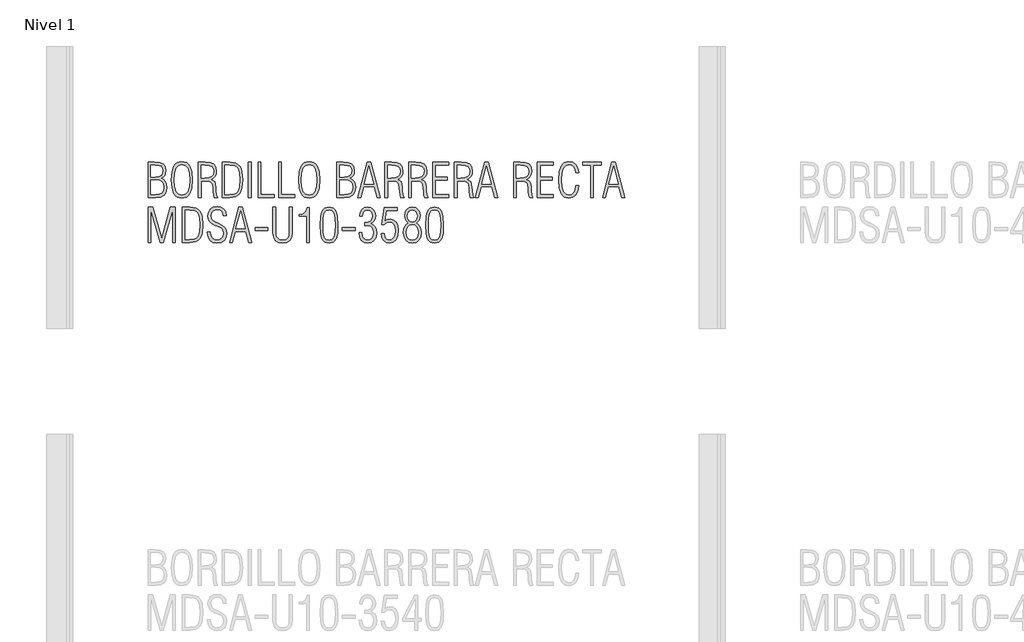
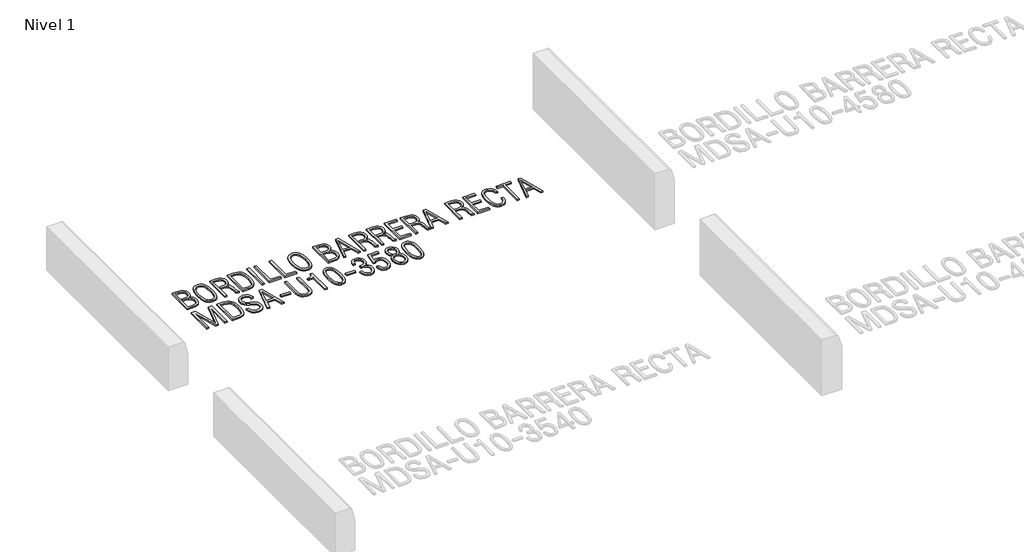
# One storey, part 2 of 4: 1 proxy.
"""IFC4 building model written with IfcOpenShell, lengths in millimetres."""

from ifc_helpers import new_model, si_unit, origin, origin_with_axes, place, context, project, spatial, polyline, outline, extrude, element, save

model = new_model("IFC4")

# Units and contexts
model_context = context("Model", 3, world=origin())
ifc_project = project(units=[si_unit("LENGTHUNIT", "METRE", prefix="MILLI")], contexts=[model_context])

# Site, building, storey
site = spatial("IfcSite", under=ifc_project)
building = spatial("IfcBuilding", under=site)
storey = spatial("IfcBuildingStorey", under=building, Name="Nivel 1", Elevation=0.0)

# Proxy
placement = place(None, origin())
element("IfcBuildingElementProxy", 1, Name="200mm", ObjectType="200mm", at=placement, inside=storey, context=model_context, shape_type="SweptSolid", body=[
    extrude(outline(polyline([(-3968.5349981, 4281.6050587), (-3968.5349981, 4482.0976811), (-3932.7110895, 4482.0976811), (-3902.9946773, 4479.3249915), (-3883.1689986, 4471.0069224), (-3872.0087648, 4456.4234589), (-3868.2886868, 4434.8545859), (-3869.8739832, 4419.5826869), (-3874.6298723, 4407.3171667), (-3882.6447771, 4397.8559158), (-3894.0071205, 4390.9968247), (-3879.5941869, 4382.7924423), (-3869.6023986, 4372.1248503), (-3863.7664868, 4358.5266706), (-3861.8211829, 4341.530525), (-3865.7307385, 4314.9025985), (-3877.4594053, 4296.2579973), (-3897.360875, 4285.2682933), (-3925.7888391, 4281.6050587), (-3968.5349981, 4281.6050587)]), holes=[polyline([(-3952.3662382, 4297.7738185), (-3927.9615162, 4297.7738185), (-3904.9778767, 4300.3317669), (-3889.5859752, 4308.0056119), (-3880.8889509, 4321.5153687), (-3877.9899427, 4341.5810523), (-3880.9394782, 4359.5624818), (-3889.7880847, 4372.0743229), (-3904.8894538, 4379.4071082), (-3926.5972771, 4381.8513699), (-3952.3662382, 4381.8513699), (-3952.3662382, 4297.7738185)]), polyline([(-3952.3662382, 4398.0201298), (-3927.4057151, 4398.0201298), (-3907.9842555, 4400.1549114), (-3894.68924, 4406.5592561), (-3887.015395, 4417.6247511), (-3884.4574467, 4433.7429836), (-3887.015395, 4448.7243502), (-3894.68924, 4458.6024519), (-3908.6284795, 4464.0973039), (-3929.9826112, 4465.9289213), (-3952.3662382, 4465.9289213), (-3952.3662382, 4398.0201298)])]), origin_with_axes(), (0.0, 0.0, 1.0), 10.0),
    extrude(outline(polyline([(-3835.9511671, 4382.0534794), (-3832.3321438, 4428.2797113), (-3821.4750742, 4460.3456464), (-3813.2154275, 4471.2769281), (-3802.91258, 4479.0849864), (-3790.5665318, 4483.7698214), (-3776.1772829, 4485.3314331), (-3761.7438225, 4483.7745584), (-3749.3661947, 4479.1039342), (-3739.0443995, 4471.3195605), (-3730.7784368, 4460.4214374), (-3719.9213672, 4428.3744501), (-3716.302344, 4382.0534794), (-3719.9403149, 4335.6819813), (-3730.8542278, 4303.4834119), (-3739.1438752, 4292.4968658), (-3749.4609335, 4284.649333), (-3761.8054028, 4279.9408133), (-3776.1772829, 4278.3713067), (-3790.5049515, 4279.9408133), (-3802.8178411, 4284.649333), (-3813.1159517, 4292.4968658), (-3821.3992832, 4303.4834119), (-3832.3131961, 4335.6819813), (-3835.9511671, 4382.0534794)]), holes=[polyline([(-3819.7824072, 4381.8513699), (-3817.1107722, 4343.0842417), (-3809.0958674, 4315.913146), (-3795.4976877, 4299.8833364), (-3776.0762281, 4294.5400666), (-3756.6358207, 4299.8517568), (-3743.0818525, 4315.7868276), (-3735.123791, 4342.9263437), (-3732.4711038, 4381.8513699), (-3735.123791, 4420.7763961), (-3743.0818525, 4447.9159122), (-3756.6358207, 4463.850983), (-3776.0762281, 4469.1626732), (-3795.4976877, 4463.8194034), (-3809.0958674, 4447.7895938), (-3817.1107722, 4420.6184981), (-3819.7824072, 4381.8513699)])]), origin_with_axes(), (0.0, 0.0, 1.0), 10.0),
    extrude(outline(polyline([(-3683.9648242, 4281.6050587), (-3683.9648242, 4482.0976811), (-3644.9071636, 4482.0976811), (-3616.0434009, 4479.0913024), (-3596.0471924, 4470.072166), (-3584.3753688, 4454.6992123), (-3580.484761, 4432.6313814), (-3582.3542738, 4415.4141785), (-3587.9628124, 4401.7591555), (-3597.449327, 4391.4263074), (-3610.9527679, 4384.1756291), (-3599.1609418, 4378.7881478), (-3591.1713007, 4370.609029), (-3586.2638294, 4358.0466605), (-3583.7185129, 4339.50943), (-3582.9606023, 4321.7237941), (-3580.1689649, 4295.7527235), (-3574.017257, 4281.6050587), (-3592.6113309, 4281.6050587), (-3596.880894, 4293.7442604), (-3599.1798896, 4318.5405695), (-3599.8872728, 4331.8797964), (-3602.7610173, 4354.212896), (-3608.6537723, 4367.1479039), (-3619.0560956, 4373.3248754), (-3635.4585446, 4375.3838659), (-3667.7960643, 4375.3838659), (-3667.7960643, 4281.6050587), (-3683.9648242, 4281.6050587)]), holes=[polyline([(-3667.7960643, 4391.5526258), (-3650.1620106, 4391.5526258), (-3625.3151741, 4393.8074099), (-3608.8811455, 4400.5717622), (-3599.710427, 4412.5025385), (-3596.6535209, 4430.2565948), (-3599.5588449, 4446.3685114), (-3608.274817, 4457.4150586), (-3623.3698702, 4463.8004556), (-3645.4124374, 4465.9289213), (-3667.7960643, 4465.9289213), (-3667.7960643, 4391.5526258)])]), origin_with_axes(), (0.0, 0.0, 1.0), 10.0),
    extrude(outline(polyline([(-3548.1472412, 4281.6050587), (-3548.1472412, 4482.0976811), (-3506.3611024, 4482.0976811), (-3487.3201771, 4480.7018624), (-3471.326684, 4476.5144063), (-3458.3806233, 4469.5353126), (-3448.4819948, 4459.7645816), (-3441.1539465, 4446.5295674), (-3435.9196263, 4429.1576244), (-3431.7321701, 4382.002952), (-3435.938574, 4334.8735433), (-3441.1965789, 4317.4573889), (-3448.5577858, 4304.1402677), (-3458.480099, 4294.2811138), (-3471.4214229, 4287.2388609), (-3487.3817573, 4283.0135092), (-3506.3611024, 4281.6050587), (-3548.1472412, 4281.6050587)]), holes=[polyline([(-3531.9784813, 4297.7738185), (-3507.4727046, 4297.7738185), (-3478.6468374, 4302.100225), (-3468.2697779, 4307.508233), (-3460.583301, 4315.0794443), (-3451.0715227, 4340.3620794), (-3447.90093, 4381.598733), (-3451.0715227, 4423.1511827), (-3460.583301, 4448.5727681), (-3468.2697779, 4456.1660851), (-3478.6468374, 4461.589883), (-3507.4727046, 4465.9289213), (-3531.9784813, 4465.9289213), (-3531.9784813, 4297.7738185)])]), origin_with_axes(), (0.0, 0.0, 1.0), 10.0),
    extrude(outline(polyline([(-3399.3946503, 4281.6050587), (-3399.3946503, 4482.0976811), (-3383.2258905, 4482.0976811), (-3383.2258905, 4281.6050587), (-3399.3946503, 4281.6050587)])), origin_with_axes(), (0.0, 0.0, 1.0), 10.0),
    extrude(outline(polyline([(-3344.4208667, 4281.6050587), (-3344.4208667, 4482.0976811), (-3328.2521069, 4482.0976811), (-3328.2521069, 4297.7738185), (-3253.8758114, 4297.7738185), (-3253.8758114, 4281.6050587), (-3344.4208667, 4281.6050587)])), origin_with_axes(), (0.0, 0.0, 1.0), 10.0),
    extrude(outline(polyline([(-3228.0057956, 4281.6050587), (-3228.0057956, 4482.0976811), (-3211.8370357, 4482.0976811), (-3211.8370357, 4297.7738185), (-3137.4607403, 4297.7738185), (-3137.4607403, 4281.6050587), (-3228.0057956, 4281.6050587)])), origin_with_axes(), (0.0, 0.0, 1.0), 10.0),
    extrude(outline(polyline([(-3114.8244765, 4382.0534794), (-3111.2054533, 4428.2797113), (-3100.3483836, 4460.3456464), (-3092.0887369, 4471.2769281), (-3081.7858894, 4479.0849864), (-3069.4398412, 4483.7698214), (-3055.0505923, 4485.3314331), (-3040.6171319, 4483.7745584), (-3028.2395041, 4479.1039342), (-3017.9177089, 4471.3195605), (-3009.6517462, 4460.4214374), (-2998.7946766, 4428.3744501), (-2995.1756534, 4382.0534794), (-2998.8136243, 4335.6819813), (-3009.7275373, 4303.4834119), (-3018.0171847, 4292.4968658), (-3028.334243, 4284.649333), (-3040.6787122, 4279.9408133), (-3055.0505923, 4278.3713067), (-3069.378261, 4279.9408133), (-3081.6911506, 4284.649333), (-3091.9892611, 4292.4968658), (-3100.2725926, 4303.4834119), (-3111.1865055, 4335.6819813), (-3114.8244765, 4382.0534794)]), holes=[polyline([(-3098.6557166, 4381.8513699), (-3095.9840817, 4343.0842417), (-3087.9691769, 4315.913146), (-3074.3709972, 4299.8833364), (-3054.9495375, 4294.5400666), (-3035.5091302, 4299.8517568), (-3021.9551619, 4315.7868276), (-3013.9971004, 4342.9263437), (-3011.3444133, 4381.8513699), (-3013.9971004, 4420.7763961), (-3021.9551619, 4447.9159122), (-3035.5091302, 4463.850983), (-3054.9495375, 4469.1626732), (-3074.3709972, 4463.8194034), (-3087.9691769, 4447.7895938), (-3095.9840817, 4420.6184981), (-3098.6557166, 4381.8513699)])]), origin_with_axes(), (0.0, 0.0, 1.0), 10.0),
    extrude(outline(polyline([(-2898.1630941, 4281.6050587), (-2898.1630941, 4482.0976811), (-2862.3391855, 4482.0976811), (-2832.6227733, 4479.3249915), (-2812.7970947, 4471.0069224), (-2801.6368608, 4456.4234589), (-2797.9167829, 4434.8545859), (-2799.5020792, 4419.5826869), (-2804.2579684, 4407.3171667), (-2812.2728732, 4397.8559158), (-2823.6352165, 4390.9968247), (-2809.2222829, 4382.7924423), (-2799.2304946, 4372.1248503), (-2793.3945828, 4358.5266706), (-2791.4492789, 4341.530525), (-2795.3588345, 4314.9025985), (-2807.0875013, 4296.2579973), (-2826.988971, 4285.2682933), (-2855.4169352, 4281.6050587), (-2898.1630941, 4281.6050587)]), holes=[polyline([(-2881.9943342, 4398.0201298), (-2857.0338112, 4398.0201298), (-2837.6123515, 4400.1549114), (-2824.3173361, 4406.5592561), (-2816.6434911, 4417.6247511), (-2814.0855427, 4433.7429836), (-2816.6434911, 4448.7243502), (-2824.3173361, 4458.6024519), (-2838.2565756, 4464.0973039), (-2859.6107073, 4465.9289213), (-2881.9943342, 4465.9289213), (-2881.9943342, 4398.0201298)]), polyline([(-2881.9943342, 4297.7738185), (-2857.5896123, 4297.7738185), (-2834.6059728, 4300.3317669), (-2819.2140713, 4308.0056119), (-2810.5170469, 4321.5153687), (-2807.6180388, 4341.5810523), (-2810.5675743, 4359.5624818), (-2819.4161808, 4372.0743229), (-2834.5175498, 4379.4071082), (-2856.2253732, 4381.8513699), (-2881.9943342, 4381.8513699), (-2881.9943342, 4297.7738185)])]), origin_with_axes(), (0.0, 0.0, 1.0), 10.0),
    extrude(outline(polyline([(-2778.514271, 4281.6050587), (-2724.9552539, 4482.0976811), (-2705.4011599, 4482.0976811), (-2652.3979439, 4281.6050587), (-2669.2235597, 4281.6050587), (-2685.9986481, 4343.0463462), (-2745.9241144, 4343.0463462), (-2763.002367, 4281.6050587), (-2778.514271, 4281.6050587)]), holes=[polyline([(-2743.0945814, 4359.2151061), (-2689.3839822, 4359.2151061), (-2716.1129633, 4459.9161637), (-2743.0945814, 4359.2151061)])]), origin_with_axes(), (0.0, 0.0, 1.0), 10.0),
    extrude(outline(polyline([(-2626.5279281, 4281.6050587), (-2626.5279281, 4482.0976811), (-2587.4702676, 4482.0976811), (-2558.6065048, 4479.0913024), (-2538.6102963, 4470.072166), (-2526.9384728, 4454.6992123), (-2523.0478649, 4432.6313814), (-2524.9173778, 4415.4141785), (-2530.5259164, 4401.7591555), (-2540.0124309, 4391.4263074), (-2553.5158718, 4384.1756291), (-2541.7240458, 4378.7881478), (-2533.7344047, 4370.609029), (-2528.8269334, 4358.0466605), (-2526.2816169, 4339.50943), (-2525.5237063, 4321.7237941), (-2522.7320688, 4295.7527235), (-2516.580361, 4281.6050587), (-2535.1744348, 4281.6050587), (-2539.443998, 4293.7442604), (-2541.7429935, 4318.5405695), (-2542.4503768, 4331.8797964), (-2545.3241212, 4354.212896), (-2551.2168763, 4367.1479039), (-2561.6191995, 4373.3248754), (-2578.0216485, 4375.3838659), (-2610.3591683, 4375.3838659), (-2610.3591683, 4281.6050587), (-2626.5279281, 4281.6050587)]), holes=[polyline([(-2610.3591683, 4391.5526258), (-2592.7251145, 4391.5526258), (-2567.8782781, 4393.8074099), (-2551.4442495, 4400.5717622), (-2542.273531, 4412.5025385), (-2539.2166248, 4430.2565948), (-2542.1219488, 4446.3685114), (-2550.837921, 4457.4150586), (-2565.9329741, 4463.8004556), (-2587.9755413, 4465.9289213), (-2610.3591683, 4465.9289213), (-2610.3591683, 4391.5526258)])]), origin_with_axes(), (0.0, 0.0, 1.0), 10.0),
    extrude(outline(polyline([(-2490.7103452, 4281.6050587), (-2490.7103452, 4482.0976811), (-2451.6526846, 4482.0976811), (-2422.7889218, 4479.0913024), (-2402.7927133, 4470.072166), (-2391.1208898, 4454.6992123), (-2387.2302819, 4432.6313814), (-2389.0997948, 4415.4141785), (-2394.7083334, 4401.7591555), (-2404.194848, 4391.4263074), (-2417.6982888, 4384.1756291), (-2405.9064628, 4378.7881478), (-2397.9168217, 4370.609029), (-2393.0093504, 4358.0466605), (-2390.4640339, 4339.50943), (-2389.7061233, 4321.7237941), (-2386.9144859, 4295.7527235), (-2380.762778, 4281.6050587), (-2399.3568519, 4281.6050587), (-2403.626415, 4293.7442604), (-2405.9254106, 4318.5405695), (-2406.6327938, 4331.8797964), (-2409.5065382, 4354.212896), (-2415.3992933, 4367.1479039), (-2425.8016165, 4373.3248754), (-2442.2040655, 4375.3838659), (-2474.5415853, 4375.3838659), (-2474.5415853, 4281.6050587), (-2490.7103452, 4281.6050587)]), holes=[polyline([(-2474.5415853, 4391.5526258), (-2456.9075315, 4391.5526258), (-2432.0606951, 4393.8074099), (-2415.6266665, 4400.5717622), (-2406.455948, 4412.5025385), (-2403.3990418, 4430.2565948), (-2406.3043659, 4446.3685114), (-2415.020338, 4457.4150586), (-2430.1153912, 4463.8004556), (-2452.1579583, 4465.9289213), (-2474.5415853, 4465.9289213), (-2474.5415853, 4391.5526258)])]), origin_with_axes(), (0.0, 0.0, 1.0), 10.0),
    extrude(outline(polyline([(-2354.8927622, 4281.6050587), (-2354.8927622, 4482.0976811), (-2264.3477069, 4482.0976811), (-2264.3477069, 4465.9289213), (-2338.7240023, 4465.9289213), (-2338.7240023, 4398.0201298), (-2270.8152108, 4398.0201298), (-2270.8152108, 4381.8513699), (-2338.7240023, 4381.8513699), (-2338.7240023, 4297.7738185), (-2264.3477069, 4297.7738185), (-2264.3477069, 4281.6050587), (-2354.8927622, 4281.6050587)])), origin_with_axes(), (0.0, 0.0, 1.0), 10.0),
    extrude(outline(polyline([(-2232.0101871, 4281.6050587), (-2232.0101871, 4482.0976811), (-2192.9525265, 4482.0976811), (-2164.0887638, 4479.0913024), (-2144.0925553, 4470.072166), (-2132.4207317, 4454.6992123), (-2128.5301239, 4432.6313814), (-2130.3996367, 4415.4141785), (-2136.0081753, 4401.7591555), (-2145.4946899, 4391.4263074), (-2158.9981308, 4384.1756291), (-2147.2063047, 4378.7881478), (-2139.2166636, 4370.609029), (-2134.3091924, 4358.0466605), (-2131.7638759, 4339.50943), (-2131.0059652, 4321.7237941), (-2128.2143278, 4295.7527235), (-2122.0626199, 4281.6050587), (-2140.6566938, 4281.6050587), (-2144.926257, 4293.7442604), (-2147.2252525, 4318.5405695), (-2147.9326357, 4331.8797964), (-2150.8063802, 4354.212896), (-2156.6991352, 4367.1479039), (-2167.1014585, 4373.3248754), (-2183.5039075, 4375.3838659), (-2215.8414272, 4375.3838659), (-2215.8414272, 4281.6050587), (-2232.0101871, 4281.6050587)]), holes=[polyline([(-2215.8414272, 4391.5526258), (-2198.2073735, 4391.5526258), (-2173.360537, 4393.8074099), (-2156.9265084, 4400.5717622), (-2147.7557899, 4412.5025385), (-2144.6988838, 4430.2565948), (-2147.6042078, 4446.3685114), (-2156.3201799, 4457.4150586), (-2171.4152331, 4463.8004556), (-2193.4578003, 4465.9289213), (-2215.8414272, 4465.9289213), (-2215.8414272, 4391.5526258)])]), origin_with_axes(), (0.0, 0.0, 1.0), 10.0),
    extrude(outline(polyline([(-2112.361364, 4281.6050587), (-2058.8023469, 4482.0976811), (-2039.2482529, 4482.0976811), (-1986.245037, 4281.6050587), (-2003.0706527, 4281.6050587), (-2019.8457411, 4343.0463462), (-2079.7712074, 4343.0463462), (-2096.84946, 4281.6050587), (-2112.361364, 4281.6050587)]), holes=[polyline([(-2076.9416744, 4359.2151061), (-2023.2310752, 4359.2151061), (-2049.9600564, 4459.9161637), (-2076.9416744, 4359.2151061)])]), origin_with_axes(), (0.0, 0.0, 1.0), 10.0),
    extrude(outline(polyline([(-1895.6999816, 4281.6050587), (-1895.6999816, 4482.0976811), (-1856.6423211, 4482.0976811), (-1827.7785583, 4479.0913024), (-1807.7823498, 4470.072166), (-1796.1105263, 4454.6992123), (-1792.2199184, 4432.6313814), (-1794.0894313, 4415.4141785), (-1799.6979699, 4401.7591555), (-1809.1844844, 4391.4263074), (-1822.6879253, 4384.1756291), (-1810.8960993, 4378.7881478), (-1802.9064581, 4370.609029), (-1797.9989869, 4358.0466605), (-1795.4536704, 4339.50943), (-1794.6957598, 4321.7237941), (-1791.9041223, 4295.7527235), (-1785.7524145, 4281.6050587), (-1804.3464883, 4281.6050587), (-1808.6160515, 4293.7442604), (-1810.915047, 4318.5405695), (-1811.6224303, 4331.8797964), (-1814.4961747, 4354.212896), (-1820.3889298, 4367.1479039), (-1830.791253, 4373.3248754), (-1847.193702, 4375.3838659), (-1879.5312218, 4375.3838659), (-1879.5312218, 4281.6050587), (-1895.6999816, 4281.6050587)]), holes=[polyline([(-1879.5312218, 4391.5526258), (-1861.897168, 4391.5526258), (-1837.0503315, 4393.8074099), (-1820.616303, 4400.5717622), (-1811.4455845, 4412.5025385), (-1808.3886783, 4430.2565948), (-1811.2940023, 4446.3685114), (-1820.0099745, 4457.4150586), (-1835.1050276, 4463.8004556), (-1857.1475948, 4465.9289213), (-1879.5312218, 4465.9289213), (-1879.5312218, 4391.5526258)])]), origin_with_axes(), (0.0, 0.0, 1.0), 10.0),
    extrude(outline(polyline([(-1759.8823987, 4281.6050587), (-1759.8823987, 4482.0976811), (-1669.3373433, 4482.0976811), (-1669.3373433, 4465.9289213), (-1743.7136388, 4465.9289213), (-1743.7136388, 4398.0201298), (-1675.8048473, 4398.0201298), (-1675.8048473, 4381.8513699), (-1743.7136388, 4381.8513699), (-1743.7136388, 4297.7738185), (-1669.3373433, 4297.7738185), (-1669.3373433, 4281.6050587), (-1759.8823987, 4281.6050587)])), origin_with_axes(), (0.0, 0.0, 1.0), 10.0),
    extrude(outline(polyline([(-1525.7385447, 4349.5138501), (-1531.0376031, 4318.6732039), (-1542.2862599, 4296.3843157), (-1559.2824055, 4282.8745589), (-1581.8239305, 4278.3713067), (-1595.8831725, 4279.9408133), (-1607.9465832, 4284.649333), (-1618.0141626, 4292.4968658), (-1626.0859107, 4303.4834119), (-1636.6966593, 4335.6819813), (-1640.2335756, 4382.0534794), (-1636.6966593, 4428.2797113), (-1626.0859107, 4460.3456464), (-1618.0141626, 4471.2769281), (-1607.9465832, 4479.0849864), (-1595.8831725, 4483.7698214), (-1581.8239305, 4485.3314331), (-1559.3960921, 4481.2639795), (-1542.2357325, 4469.0616185), (-1531.1765534, 4449.633843), (-1527.0522564, 4423.8901456), (-1543.2210163, 4423.7385635), (-1546.5431912, 4442.9326499), (-1554.3875661, 4457.2634765), (-1566.3246583, 4466.1878741), (-1581.9249852, 4469.1626732), (-1600.6453775, 4463.850983), (-1613.7572313, 4447.9159122), (-1621.4879196, 4420.7763961), (-1624.0648157, 4381.8513699), (-1621.4942355, 4342.9263437), (-1613.7824949, 4315.7868276), (-1600.689589, 4299.8517568), (-1581.9755126, 4294.5400666), (-1566.2046558, 4298.1211942), (-1553.9580834, 4308.8645773), (-1545.665278, 4326.1891508), (-1541.7557224, 4349.5138501), (-1525.7385447, 4349.5138501)])), origin_with_axes(), (0.0, 0.0, 1.0), 10.0),
    extrude(outline(polyline([(-1459.1434649, 4281.6050587), (-1459.1434649, 4465.9289213), (-1504.4159926, 4465.9289213), (-1504.4159926, 4482.0976811), (-1397.7021774, 4482.0976811), (-1397.7021774, 4465.9289213), (-1442.974705, 4465.9289213), (-1442.974705, 4281.6050587), (-1459.1434649, 4281.6050587)])), origin_with_axes(), (0.0, 0.0, 1.0), 10.0),
    extrude(outline(polyline([(-1391.2346734, 4281.6050587), (-1337.6756563, 4482.0976811), (-1318.1215624, 4482.0976811), (-1265.1183464, 4281.6050587), (-1281.9439621, 4281.6050587), (-1298.7190505, 4343.0463462), (-1358.6445168, 4343.0463462), (-1375.7227694, 4281.6050587), (-1391.2346734, 4281.6050587)]), holes=[polyline([(-1355.8149838, 4359.2151061), (-1302.1043846, 4359.2151061), (-1328.8333658, 4459.9161637), (-1355.8149838, 4359.2151061)])]), origin_with_axes(), (0.0, 0.0, 1.0), 10.0),
    extrude(outline(polyline([(-3968.5349981, 4026.6312751), (-3968.5349981, 4227.1238976), (-3940.4923051, 4227.1238976), (-3890.9249506, 4050.0254495), (-3841.1049593, 4227.1238976), (-3813.3149032, 4227.1238976), (-3813.3149032, 4026.6312751), (-3829.4836631, 4026.6312751), (-3829.4836631, 4212.8246505), (-3881.6784411, 4026.6312751), (-3899.7672412, 4026.6312751), (-3952.3662382, 4212.8246505), (-3952.3662382, 4026.6312751), (-3968.5349981, 4026.6312751)])), origin_with_axes(), (0.0, 0.0, 1.0), 10.0),
    extrude(outline(polyline([(-3774.5098795, 4026.6312751), (-3774.5098795, 4227.1238976), (-3732.7237407, 4227.1238976), (-3713.6828154, 4225.7280788), (-3697.6893223, 4221.5406227), (-3684.7432616, 4214.561529), (-3674.8446331, 4204.790798), (-3667.5165848, 4191.5557838), (-3662.2822646, 4174.1838408), (-3658.0948084, 4127.0291684), (-3662.3012123, 4079.8997598), (-3667.5592172, 4062.4836053), (-3674.9204241, 4049.1664841), (-3684.8427373, 4039.3073302), (-3697.7840612, 4032.2650773), (-3713.7443956, 4028.0397256), (-3732.7237407, 4026.6312751), (-3774.5098795, 4026.6312751)]), holes=[polyline([(-3758.3411196, 4042.8000349), (-3733.8353429, 4042.8000349), (-3705.0094757, 4047.1264414), (-3694.6324162, 4052.5344495), (-3686.9459393, 4060.1056608), (-3677.434161, 4085.3882958), (-3674.2635683, 4126.6249494), (-3677.434161, 4168.1773991), (-3686.9459393, 4193.5989845), (-3694.6324162, 4201.1923015), (-3705.0094757, 4206.6160994), (-3733.8353429, 4210.9551377), (-3758.3411196, 4210.9551377), (-3758.3411196, 4042.8000349)])]), origin_with_axes(), (0.0, 0.0, 1.0), 10.0),
    extrude(outline(polyline([(-3632.2247926, 4084.8388106), (-3616.0560327, 4084.8388106), (-3613.0370221, 4065.7584108), (-3605.4958114, 4051.4654797), (-3593.9250426, 4042.5410821), (-3578.8173576, 4039.566283), (-3561.9917419, 4042.2379179), (-3549.2083161, 4050.2528227), (-3541.136568, 4062.916246), (-3538.4459853, 4079.5334363), (-3541.376573, 4095.2474498), (-3550.9767742, 4107.272965), (-3574.5730581, 4118.9447885), (-3586.1943543, 4123.4922522), (-3606.0705603, 4133.9072073), (-3619.2139936, 4145.9516702), (-3626.5467789, 4160.6614522), (-3628.9910406, 4179.0723643), (-3625.2772786, 4199.4412122), (-3614.1359925, 4215.8815567), (-3597.2219538, 4226.7386263), (-3576.1899341, 4230.3576495), (-3555.1389667, 4226.9975791), (-3539.0775775, 4216.9173679), (-3528.9026274, 4200.9380857), (-3525.5109774, 4179.8808023), (-3541.6797373, 4178.6176179), (-3544.6798001, 4193.7379348), (-3551.557839, 4204.9423801), (-3561.9727941, 4211.8772623), (-3575.5836056, 4214.1888897), (-3590.3439149, 4211.6183095), (-3602.2873231, 4203.9065689), (-3610.1885413, 4192.2410613), (-3612.8222807, 4177.8091799), (-3610.6496036, 4164.469953), (-3604.232627, 4153.3539306), (-3593.0534454, 4145.0169138), (-3573.3604012, 4136.1746232), (-3566.8423698, 4133.5471998), (-3546.1135144, 4123.2964586), (-3532.4332277, 4111.5425281), (-3524.816226, 4097.1864378), (-3522.2772254, 4079.1292173), (-3525.9720397, 4055.962416), (-3537.0564825, 4038.3030986), (-3554.5579019, 4027.123917), (-3577.5036459, 4023.3975231), (-3600.2914918, 4027.3765538), (-3617.3192171, 4039.3136461), (-3628.1194434, 4058.6529987), (-3632.2247926, 4084.8388106)])), origin_with_axes(), (0.0, 0.0, 1.0), 10.0),
    extrude(outline(polyline([(-3506.1084655, 4026.6312751), (-3452.5494484, 4227.1238976), (-3432.9953545, 4227.1238976), (-3379.9921385, 4026.6312751), (-3396.8177542, 4026.6312751), (-3413.5928426, 4088.0725626), (-3473.5183089, 4088.0725626), (-3490.5965615, 4026.6312751), (-3506.1084655, 4026.6312751)]), holes=[polyline([(-3470.6887759, 4104.2413225), (-3416.9781767, 4104.2413225), (-3443.7071579, 4204.9423801), (-3470.6887759, 4104.2413225)])]), origin_with_axes(), (0.0, 0.0, 1.0), 10.0),
    extrude(outline(polyline([(-3360.5896266, 4094.5400666), (-3360.5896266, 4110.7088264), (-3289.4470832, 4110.7088264), (-3289.4470832, 4094.5400666), (-3360.5896266, 4094.5400666)])), origin_with_axes(), (0.0, 0.0, 1.0), 10.0),
    extrude(outline(polyline([(-3150.3957482, 4227.1238976), (-3150.3957482, 4080.847148), (-3153.9074007, 4056.2024211), (-3164.4423584, 4038.1515165), (-3181.6595613, 4027.0860214), (-3205.2179497, 4023.3975231), (-3229.0037113, 4027.0733896), (-3246.2967052, 4038.1009891), (-3256.8316628, 4056.1392618), (-3260.3433154, 4080.847148), (-3260.3433154, 4227.1238976), (-3244.1745555, 4227.1238976), (-3244.1745555, 4093.2263548), (-3242.9113711, 4068.8721602), (-3238.6670717, 4056.8971725), (-3224.9741531, 4044.0632193), (-3205.2179497, 4039.566283), (-3185.4870099, 4044.1390104), (-3171.7688277, 4056.8971725), (-3167.7771651, 4067.4573938), (-3166.5645081, 4084.1314274), (-3166.5645081, 4093.2263548), (-3166.5645081, 4227.1238976), (-3150.3957482, 4227.1238976)])), origin_with_axes(), (0.0, 0.0, 1.0), 10.0),
    extrude(outline(polyline([(-3069.5519488, 4026.6312751), (-3069.5519488, 4177.7081252), (-3084.9880618, 4176.0407218), (-3100.8283937, 4175.3838659), (-3107.3211613, 4175.4343933), (-3111.5907245, 4175.7375576), (-3111.5907245, 4185.0851219), (-3091.9671554, 4187.9714981), (-3078.4700304, 4194.8116415), (-3070.1140659, 4206.4897809), (-3065.9139778, 4223.8901456), (-3053.3831889, 4223.8901456), (-3053.3831889, 4026.6312751), (-3069.5519488, 4026.6312751)])), origin_with_axes(), (0.0, 0.0, 1.0), 10.0),
    extrude(outline(polyline([(-2991.9419014, 4125.4628198), (-2989.6934332, 4173.2364525), (-2982.6953918, 4200.3949164), (-2975.0594424, 4212.0414762), (-2965.6929303, 4220.4037567), (-2954.6084875, 4225.4438624), (-2941.8187458, 4227.1238976), (-2929.0290041, 4225.4312305), (-2917.9445613, 4220.3532294), (-2908.6412084, 4211.978317), (-2901.1947366, 4200.3949164), (-2894.0198494, 4172.2511687), (-2891.6955902, 4125.4628198), (-2893.9440583, 4077.8155056), (-2901.1947366, 4050.1265043), (-2908.6412084, 4038.5431036), (-2917.9445613, 4030.1681913), (-2929.0290041, 4025.0901901), (-2941.8187458, 4023.3975231), (-2954.6084875, 4025.0901901), (-2965.6929303, 4030.1681913), (-2975.0594424, 4038.5431036), (-2982.6953918, 4050.1265043), (-2989.6934332, 4077.3607592), (-2991.9419014, 4125.4628198)]), holes=[polyline([(-2975.7731415, 4125.3112377), (-2973.8341535, 4084.4345916), (-2968.0171895, 4058.311939), (-2957.551707, 4044.252697), (-2941.6671636, 4039.566283), (-2925.9468342, 4044.2211174), (-2915.5697747, 4058.1856205), (-2909.7907062, 4084.2766936), (-2907.86435, 4125.3112377), (-2909.7907062, 4166.2699908), (-2915.5697747, 4192.3358001), (-2925.9468342, 4206.3003033), (-2941.6671636, 4210.9551377), (-2957.551707, 4206.2687237), (-2968.0171895, 4192.2094817), (-2973.8341535, 4166.1120927), (-2975.7731415, 4125.3112377)])]), origin_with_axes(), (0.0, 0.0, 1.0), 10.0),
    extrude(outline(polyline([(-2865.8255743, 4094.5400666), (-2865.8255743, 4110.7088264), (-2794.6830309, 4110.7088264), (-2794.6830309, 4094.5400666), (-2865.8255743, 4094.5400666)])), origin_with_axes(), (0.0, 0.0, 1.0), 10.0),
    extrude(outline(polyline([(-2772.046767, 4081.6050587), (-2755.8780072, 4081.6050587), (-2753.383218, 4064.0025845), (-2746.7072887, 4050.7075691), (-2736.3302291, 4042.3516045), (-2722.7320494, 4039.566283), (-2708.5338572, 4042.4273956), (-2697.4683621, 4051.0107333), (-2690.3440023, 4064.3941717), (-2687.9692157, 4081.655586), (-2690.5903232, 4100.3886102), (-2698.4536459, 4113.4373047), (-2711.8749798, 4121.0922019), (-2731.170121, 4123.6438343), (-2736.4249679, 4123.5680433), (-2739.7092473, 4123.4922522), (-2739.7092473, 4139.8125942), (-2718.8603893, 4142.1621171), (-2705.1232594, 4149.2106859), (-2697.1083546, 4161.2993603), (-2694.4367196, 4178.7692), (-2696.3820236, 4192.3294842), (-2702.2179353, 4202.4918024), (-2711.5023404, 4208.8393039), (-2723.7931243, 4210.9551377), (-2735.9575897, 4208.668774), (-2745.065149, 4201.8096829), (-2750.7494786, 4190.8199789), (-2752.6442552, 4176.1417766), (-2768.8130151, 4175.3838659), (-2765.4087332, 4197.2622192), (-2756.5095994, 4213.5825612), (-2742.6461509, 4223.7385635), (-2724.3489254, 4227.1238976), (-2705.5148465, 4223.858566), (-2690.849276, 4214.0625712), (-2681.4132888, 4198.8601474), (-2678.2679598, 4179.3755285), (-2679.947995, 4164.2488958), (-2684.9881006, 4151.4086267), (-2693.2872219, 4141.0947263), (-2704.7443041, 4133.5471998), (-2690.0787336, 4126.1196757), (-2679.8343084, 4115.2562901), (-2673.8089189, 4100.7296699), (-2671.8004558, 4082.3124419), (-2675.255265, 4057.8319289), (-2685.6196928, 4039.162064), (-2701.9968781, 4027.3386583), (-2723.48996, 4023.3975231), (-2743.6756462, 4027.2565513), (-2758.960177, 4038.833636), (-2768.6488011, 4057.2445482), (-2772.046767, 4081.6050587)])), origin_with_axes(), (0.0, 0.0, 1.0), 10.0),
    extrude(outline(polyline([(-2645.93044, 4078.3713067), (-2629.7616801, 4078.3713067), (-2626.54056, 4061.4256884), (-2620.5151706, 4049.2928026), (-2611.67288, 4041.9979129), (-2600.0010565, 4039.566283), (-2585.3102223, 4043.2042539), (-2574.2826228, 4054.1181669), (-2567.3856362, 4071.6764295), (-2565.0866406, 4095.2474498), (-2567.2845814, 4115.3068175), (-2573.8784038, 4130.4145025), (-2584.3375703, 4139.8883853), (-2598.1315436, 4143.0463462), (-2616.0687616, 4138.8525741), (-2628.4479684, 4126.8775863), (-2642.696688, 4126.8775863), (-2629.3574611, 4223.8901456), (-2555.3853847, 4223.8901456), (-2555.3853847, 4207.7213857), (-2618.3424935, 4207.7213857), (-2626.5279281, 4146.9874814), (-2611.9507806, 4156.233991), (-2596.160976, 4159.2151061), (-2576.771096, 4155.0402817), (-2561.7518339, 4142.5158088), (-2552.126369, 4122.7911849), (-2548.9178807, 4097.0159079), (-2552.2147919, 4065.3605077), (-2562.1055255, 4042.2442338), (-2578.2869172, 4028.1092008), (-2600.4558028, 4023.3975231), (-2618.8793468, 4027.0354941), (-2633.0206958, 4037.949407), (-2642.2482576, 4055.3308238), (-2645.93044, 4078.3713067)])), origin_with_axes(), (0.0, 0.0, 1.0), 10.0),
    extrude(outline(polyline([(-2492.7819675, 4135.4167126), (-2508.1928168, 4152.4949652), (-2513.346609, 4176.9502146), (-2510.434969, 4197.9064432), (-2501.7000491, 4213.7846707), (-2487.8744963, 4223.7890908), (-2469.6909573, 4227.1238976), (-2451.4126796, 4223.7890908), (-2437.6060744, 4213.7846707), (-2428.9279978, 4197.9064432), (-2426.0353057, 4176.9502146), (-2431.0880431, 4152.7476021), (-2446.7515292, 4135.4167126), (-2434.8902281, 4127.629181), (-2426.3889973, 4116.3931561), (-2421.2731006, 4101.8223244), (-2419.5678017, 4084.0303726), (-2422.8331333, 4058.4508892), (-2432.629128, 4039.3136461), (-2448.387353, 4027.3765538), (-2469.5393752, 4023.3975231), (-2490.6661337, 4027.3765538), (-2506.5506771, 4039.3136461), (-2516.498254, 4058.4508892), (-2519.8141129, 4084.0303726), (-2518.11513, 4101.8223244), (-2513.0181811, 4116.3931561), (-2504.5611617, 4127.629181), (-2492.7819675, 4135.4167126)]), holes=[polyline([(-2442.2040655, 4177.6575978), (-2443.9977873, 4191.704208), (-2449.3789527, 4202.2139019), (-2458.0317656, 4208.7698287), (-2469.6404299, 4210.9551377), (-2481.1669873, 4208.750881), (-2489.8766435, 4202.1381108), (-2495.3525477, 4191.6094691), (-2497.1778491, 4177.6575978), (-2495.3525477, 4163.1625572), (-2489.8766435, 4152.2170647), (-2481.1669873, 4145.3390258), (-2469.6404299, 4143.0463462), (-2458.0949248, 4145.326394), (-2449.4294801, 4152.1665373), (-2444.0104192, 4163.099398), (-2442.2040655, 4177.6575978)]), polyline([(-2435.7365616, 4083.8787905), (-2438.0545049, 4101.4749487), (-2445.0083348, 4115.1552354), (-2455.7769815, 4123.9469986), (-2469.5393752, 4126.8775863), (-2483.4344032, 4123.9659463), (-2494.2977888, 4115.2310265), (-2501.308462, 4101.6328468), (-2503.6453531, 4084.1314274), (-2501.4095167, 4065.6763038), (-2494.7020078, 4051.5412708), (-2484.2175775, 4042.5600299), (-2470.6509774, 4039.566283), (-2455.8969841, 4042.4652911), (-2444.8820164, 4051.1623154), (-2438.0229253, 4065.1394504), (-2435.7365616, 4083.8787905)])]), origin_with_axes(), (0.0, 0.0, 1.0), 10.0),
    extrude(outline(polyline([(-2393.6977859, 4125.4628198), (-2391.4493177, 4173.2364525), (-2384.4512763, 4200.3949164), (-2376.8153268, 4212.0414762), (-2367.4488148, 4220.4037567), (-2356.364372, 4225.4438624), (-2343.5746303, 4227.1238976), (-2330.7848886, 4225.4312305), (-2319.7004458, 4220.3532294), (-2310.3970929, 4211.978317), (-2302.9506211, 4200.3949164), (-2295.7757339, 4172.2511687), (-2293.4514746, 4125.4628198), (-2295.6999428, 4077.8155056), (-2302.9506211, 4050.1265043), (-2310.3970929, 4038.5431036), (-2319.7004458, 4030.1681913), (-2330.7848886, 4025.0901901), (-2343.5746303, 4023.3975231), (-2356.364372, 4025.0901901), (-2367.4488148, 4030.1681913), (-2376.8153268, 4038.5431036), (-2384.4512763, 4050.1265043), (-2391.4493177, 4077.3607592), (-2393.6977859, 4125.4628198)]), holes=[polyline([(-2377.529026, 4125.3112377), (-2375.590038, 4084.4345916), (-2369.773074, 4058.311939), (-2359.3075915, 4044.252697), (-2343.4230481, 4039.566283), (-2327.7027187, 4044.2211174), (-2317.3256592, 4058.1856205), (-2311.5465907, 4084.2766936), (-2309.6202345, 4125.3112377), (-2311.5465907, 4166.2699908), (-2317.3256592, 4192.3358001), (-2327.7027187, 4206.3003033), (-2343.4230481, 4210.9551377), (-2359.3075915, 4206.2687237), (-2369.773074, 4192.2094817), (-2375.590038, 4166.1120927), (-2377.529026, 4125.3112377)])]), origin_with_axes(), (0.0, 0.0, 1.0), 10.0),
])

save(model, "model.ifc")
